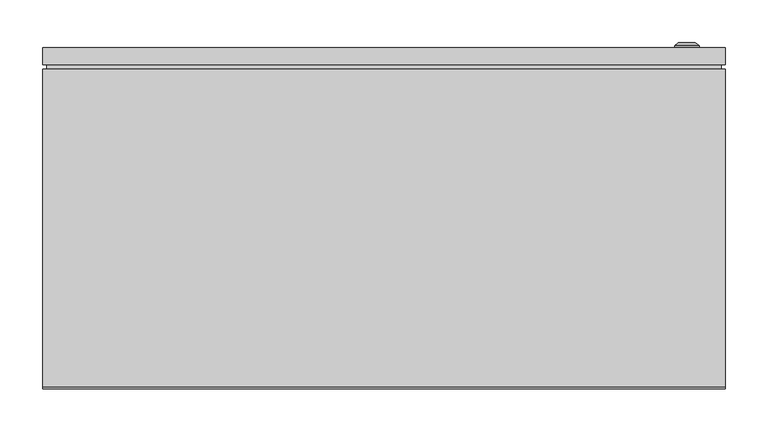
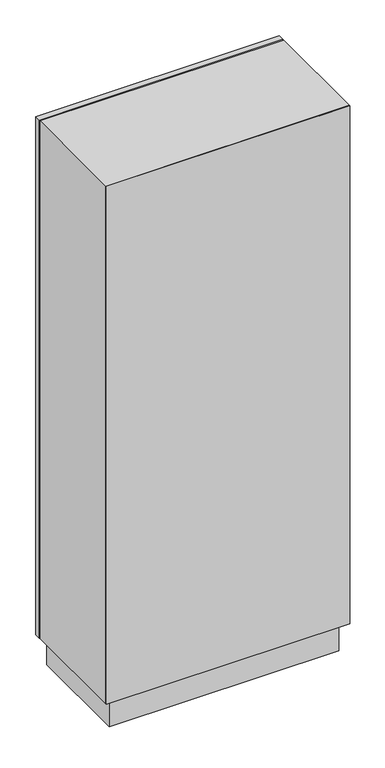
"""IFC4 building model written with IfcOpenShell, lengths in millimetres: proxy geometry, ЩМП_IP65 : ЩМП-18.8.4-0_1800х800х400."""

from ifc_helpers import new_model, si_unit, frame, origin, origin_with_axes, place, context, project, spatial, polyline, circle_curve, outline, extrude, source, transform, mapped, element, save
from ifc_brep_helpers import plane_surface, cylinder_surface, revolved_surface, advanced_brep


def electrical_equipment_5c7dc840(model_context):
    return source(origin(), model_context, "Body", "SolidModel", [
        extrude(outline(polyline([(377.5067809, 377.5), (377.5067809, 22.5), (-377.5, 22.5), (-377.5, 377.5), (377.5067809, 377.5)])), frame((0.0, 0.0, -100.0), z_axis=(0.0, 0.0, 1.0), x_axis=(1.0, 0.0, 0.0)), (0.0, 0.0, 1.0), 100.0),
        extrude(outline(polyline([(395.0, 375.0), (-395.0, 375.0), (-395.0, 380.0), (395.0, 380.0), (395.0, 375.0)])), frame((0.0, 0.0, 5.0), z_axis=(0.0, 0.0, 1.0), x_axis=(1.0, 0.0, 0.0)), (0.0, 0.0, 1.0), 1790.0),
        extrude(outline(polyline([(400.0, 380.0), (-400.0, 380.0), (-400.0, 400.0), (400.0, 400.0), (400.0, 380.0)])), origin_with_axes(), (0.0, 0.0, 1.0), 1800.0),
        advanced_brep(
        [(340.669873, 400.0, 900.0), (369.330127, 400.0, 900.0), (355.0, 400.0, 900.0), (340.669873, 402.366592, 900.0), (369.330127, 402.366592, 900.0), (345.0, 406.0, 900.0), (365.0, 406.0, 900.0), (353.1080471, 406.0, 900.0), (356.8919529, 406.0, 900.0), (353.1080471, 404.9822294, 900.0), (356.8919529, 404.9822294, 900.0), (355.0, 404.9822294, 900.0)],
        [
            (0, 1, circle_curve(frame((355.0, 400.0, 900.0), z_axis=(0.0, -1.0, 0.0), x_axis=(1.0, 0.0, 0.0)), 14.330127)),
            (1, 2),
            (2, 0),
            (1, 0, circle_curve(frame((355.0, 400.0, 900.0), z_axis=(0.0, -1.0, 0.0), x_axis=(1.0, 0.0, 0.0)), 14.330127)),
            (3, 4, circle_curve(frame((355.0, 402.366592, 900.0), z_axis=(0.0, -1.0, 0.0), x_axis=(1.0, 0.0, 0.0)), 14.330127)),
            (4, 1),
            (0, 3),
            (4, 3, circle_curve(frame((355.0, 402.366592, 900.0), z_axis=(0.0, -1.0, 0.0), x_axis=(1.0, 0.0, 0.0)), 14.330127)),
            (5, 6, circle_curve(frame((355.0, 406.0, 900.0), z_axis=(0.0, -1.0, 0.0), x_axis=(1.0, 0.0, 0.0)), 10.0)),
            (6, 4),
            (3, 5),
            (6, 5, circle_curve(frame((355.0, 406.0, 900.0), z_axis=(0.0, -1.0, 0.0), x_axis=(1.0, 0.0, 0.0)), 10.0)),
            (7, 8, circle_curve(frame((355.0, 406.0, 900.0), z_axis=(0.0, -1.0, 0.0), x_axis=(1.0, 0.0, 0.0)), 1.8919529)),
            (8, 6),
            (5, 7),
            (8, 7, circle_curve(frame((355.0, 406.0, 900.0), z_axis=(0.0, -1.0, 0.0), x_axis=(1.0, 0.0, 0.0)), 1.8919529)),
            (9, 10, circle_curve(frame((355.0, 404.9822294, 900.0), z_axis=(0.0, -1.0, 0.0), x_axis=(1.0, 0.0, 0.0)), 1.8919529)),
            (10, 8),
            (7, 9),
            (10, 9, circle_curve(frame((355.0, 404.9822294, 900.0), z_axis=(0.0, -1.0, 0.0), x_axis=(1.0, 0.0, 0.0)), 1.8919529)),
            (11, 10),
            (9, 11),
        ],
        [
            plane_surface(frame((355.0, 400.0, 900.0), z_axis=(0.0, -1.0, 0.0), x_axis=(1.0, 0.0, 0.0))),
            cylinder_surface(frame((355.0, 413.1348851, 900.0), z_axis=(0.0, 1.0, 0.0), x_axis=(1.0, 0.0, 0.0)), 14.330127),
            revolved_surface(polyline([(369.330127, 402.366592, 900.0), (365.0, 406.0, 900.0)]), (355.0, 413.1348851, 900.0), (0.0, 1.0, 0.0)),
            plane_surface(frame((355.0, 406.0, 900.0), z_axis=(0.0, 1.0, 0.0), x_axis=(1.0, 0.0, 0.0))),
            revolved_surface(polyline([(356.8919529, 406.0, 900.0), (356.8919529, 404.9822294, 900.0)]), (355.0, 413.1348851, 900.0), (0.0, 1.0, 0.0)),
            plane_surface(frame((355.0, 404.9822294, 900.0), z_axis=(0.0, 1.0, 0.0), x_axis=(1.0, 0.0, 0.0))),
        ],
        [
            (0, [[1, 2, 3]]),
            (0, [[4, -3, -2]]),
            (1, [[5, 6, -1, 7]]),
            (1, [[8, -7, -4, -6]]),
            (2, [[9, 10, -5, 11]]),
            (2, [[12, -11, -8, -10]]),
            (3, [[13, 14, -9, 15]]),
            (3, [[16, -15, -12, -14]]),
            (4, [[17, 18, -13, 19]]),
            (4, [[20, -19, -16, -18]]),
            (5, [[21, -17, 22]]),
            (5, [[-22, -20, -21]]),
        ],
    ),
        extrude(outline(polyline([(1800.0, -400.0033905), (0.0, -400.0033905), (0.0, 399.9966095), (1800.0, 399.9966095), (1800.0, -400.0033905)]), holes=[polyline([(1765.0, -365.0033905), (1765.0, 364.9966095), (35.0, 364.9966095), (35.0, -365.0033905), (1765.0, -365.0033905)])]), frame((0.0, 2.0, 0.0), z_axis=(0.0, 1.0, 0.0), x_axis=(0.0, 0.0, 1.0)), (0.0, 0.0, 1.0), 373.0),
        extrude(outline(polyline([(400.0, 0.0), (-400.0, 0.0), (-400.0, 2.0), (400.0, 2.0), (400.0, 0.0)])), origin_with_axes(), (0.0, 0.0, 1.0), 1800.0),
    ])


if __name__ == "__main__":
    model = new_model("IFC4")
    model_context = context("Model", 3, world=origin())
    ifc_project = project(units=[si_unit("LENGTHUNIT", "METRE", prefix="MILLI")], contexts=[model_context])
    site = spatial("IfcSite", under=ifc_project)
    building = spatial("IfcBuilding", under=site)
    placement = place(None, origin())
    electrical_equipment_shape = electrical_equipment_5c7dc840(model_context)
    element("IfcBuildingElementProxy", 1, Name="ЩМП_IP65 : ЩМП-18.8.4-0_1800х800х400", ObjectType="ЩМП_IP65 : ЩМП-18.8.4-0_1800х800х400", at=placement, inside=building, context=model_context, shape_type="MappedRepresentation", body=[
        mapped(electrical_equipment_shape, transform((0.0, 0.0, 0.0), x_axis=(1.0, 0.0, 0.0), y_axis=(0.0, 1.0, 0.0), z_axis=(0.0, 0.0, 1.0))),
    ])
    save(model, "model.ifc")
